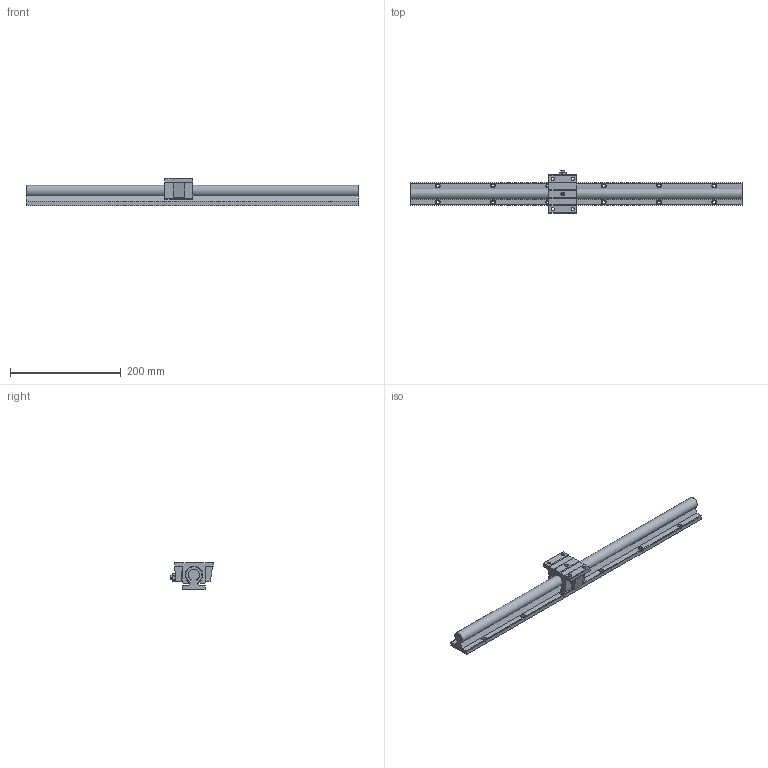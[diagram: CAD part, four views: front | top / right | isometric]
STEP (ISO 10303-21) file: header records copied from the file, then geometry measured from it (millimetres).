
FILE_DESCRIPTION((''),'2;1');
FILE_NAME('D:\製品 (図面)\カタログ用3D\リニアガイド関連\STEP形式\GT(C)\GT(C)20.stp','2010-06-02T15:44:46',('Tsuchiya'),(''),'Autodesk Inventor 10','Autodesk Inventor 10','');
FILE_SCHEMA(('AUTOMOTIVE_DESIGN { 1 0 10303 214 1 1 1 1 }'));
Length unit declared in the file: millimetre
Products named in the file (3): GT(C)20; GT(C)201; GT(C)202
Assembly tree (2 placements, depth 2):
  GT(C)20
    GT(C)201
    GT(C)202
Bounding box: 600 x 77 x 50 mm (x, y, z)
Volume: 528085.1 mm3; surface area: 114094.6 mm2
Topology: 2 solids, 2 shells, 164 faces, 459 edges, 298 vertices
Faces by surface type: plane 82, bspline 40, cylinder 25, cone 15, torus 2
Full cylindrical faces by diameter (mm): 6 x2, 8 x2
Entity records: 5518 total; most frequent: CARTESIAN_POINT 1598, ORIENTED_EDGE 812, DIRECTION 731, EDGE_CURVE 406, VERTEX_POINT 279, AXIS2_PLACEMENT_3D 248, VECTOR 235, LINE 235
